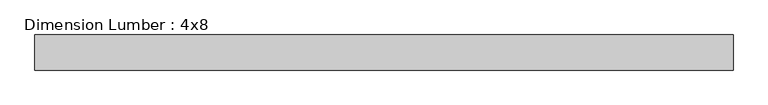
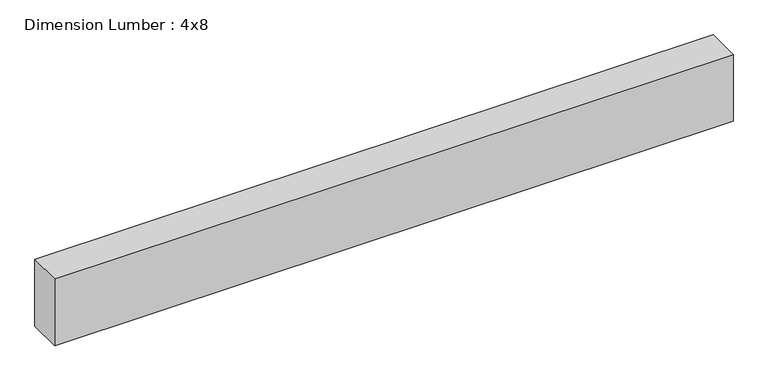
"""IFC4 building model written with IfcOpenShell, lengths in millimetres: beam geometry, Dimension Lumber : 4x8."""

from ifc_helpers import new_model, si_unit, frame, origin, place, context, project, spatial, polyline, outline, extrude, source, transform, mapped, element, save


def dimension_lumber_4x8_08470016(model_context):
    return source(origin(), model_context, "Body", "SweptSolid", [
        extrude(outline(polyline([(882.65, 44.45), (882.65, -44.45), (-882.65, -44.45), (-882.65, 44.45), (882.65, 44.45)])), frame((0.0, 0.0, -92.075), z_axis=(0.0, 0.0, 1.0), x_axis=(1.0, 0.0, 0.0)), (0.0, 0.0, 1.0), 184.15),
    ])


if __name__ == "__main__":
    model = new_model("IFC4")
    model_context = context("Model", 3, world=origin())
    ifc_project = project(units=[si_unit("LENGTHUNIT", "METRE", prefix="MILLI")], contexts=[model_context])
    site = spatial("IfcSite", under=ifc_project)
    building = spatial("IfcBuilding", under=site)
    placement = place(None, origin())
    dimension_lumber_4x8_shape = dimension_lumber_4x8_08470016(model_context)
    element("IfcBeam", 1, ObjectType="Dimension Lumber : 4x8", at=placement, inside=building, context=model_context, shape_type="MappedRepresentation", body=[
        mapped(dimension_lumber_4x8_shape, transform((0.0, 0.0, 0.0), x_axis=(1.0, 0.0, 0.0), y_axis=(0.0, 1.0, 0.0), z_axis=(0.0, 0.0, 1.0))),
    ])
    save(model, "model.ifc")
